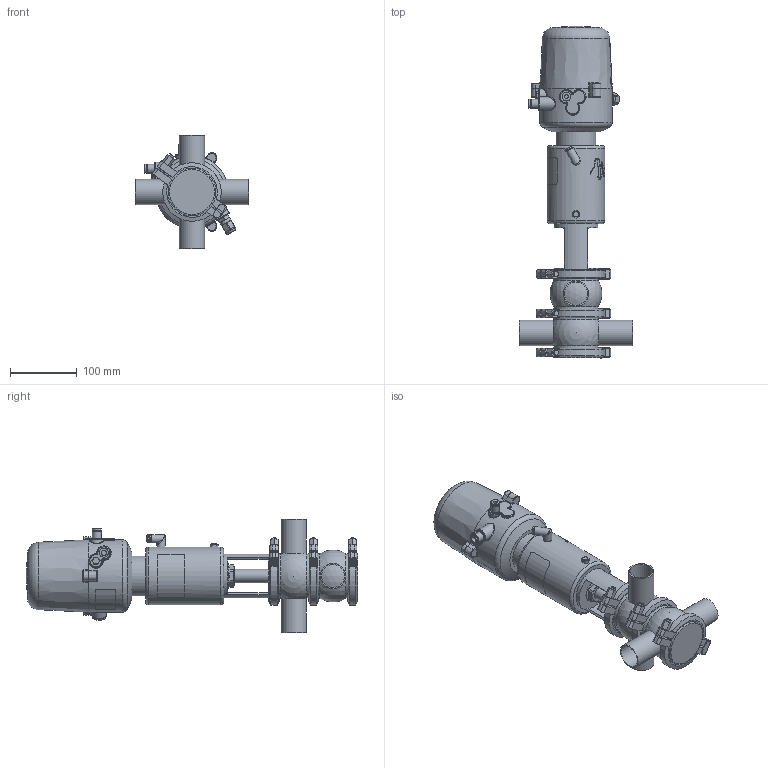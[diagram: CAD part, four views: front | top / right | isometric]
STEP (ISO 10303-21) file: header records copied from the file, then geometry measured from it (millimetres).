
FILE_DESCRIPTION (( 'STEP AP214' ), '1' );
FILE_NAME ('INNOVA M C W OD 1½ T1 AS NC & C-TOP S_10.241.16.0043.STEP', '2024-08-07T06:31:38', ( '' ), ( '' ), 'SwSTEP 2.0', 'SolidWorks 2023', '' );
FILE_SCHEMA (( 'AUTOMOTIVE_DESIGN' ));
Length unit declared in the file: millimetre
Products named in the file (8): 10.240.15.0014_T1 AS P180; 10.240.15.0007_OD 1½"; 10.240.15.0010_DN 040; 10.240.15.0017_Estàndard; 10.426.15.0001_C-TOP S - 1 EV; 10.240.15.0001_DN 040; 10.241.15.0001_DIN 040; INNOVA M C W OD 1½ T1 AS NC & C-TOP S_10.241.16.0043
Assembly tree (10 placements, depth 2):
  INNOVA M C W OD 1½ T1 AS NC & C-TOP S_10.241.16.0043
    10.240.15.0007_OD 1½"  x2
    10.240.15.0010_DN 040
    10.240.15.0014_T1 AS P180
    10.240.15.0017_Estàndard
    10.426.15.0001_C-TOP S - 1 EV
    10.240.15.0001_DN 040  x3
    10.241.15.0001_DIN 040
Bounding box: 170 x 499.07 x 170 mm (x, y, z)
Volume: 2908831.5 mm3; surface area: 323707.8 mm2
Topology: 11 solids, 11 shells, 1242 faces, 3008 edges, 1999 vertices
Faces by surface type: plane 444, cylinder 381, cone 211, bspline 160, torus 36, sphere 10
Full cylindrical faces by diameter (mm): 0.371 x17, 0.512 x16, 0.658 x16, 0.795 x16, 0.94 x15, 1.098 x15, 1.241 x13, 1.382 x13, 1.523 x11, 1.669 x10, 2.201 x1, 4 x2, 5.5 x2, 6 x2, 6.15 x1, 8 x8, 8.5 x1, 10 x1, 10.5 x1, 11 x2, 12.5 x3, 13 x2, 13.5 x2, 16 x1, 17 x3, 20 x3, 20.5 x1, 22 x2, 31 x1, 34.5 x3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
Entity records: 56732 total; most frequent: CARTESIAN_POINT 26638, ORIENTED_EDGE 4492, DIRECTION 3623, EDGE_CURVE 2246, VERTEX_POINT 1597, EDGE_LOOP 1555, AXIS2_PLACEMENT_3D 1483, FACE_OUTER_BOUND 1319
